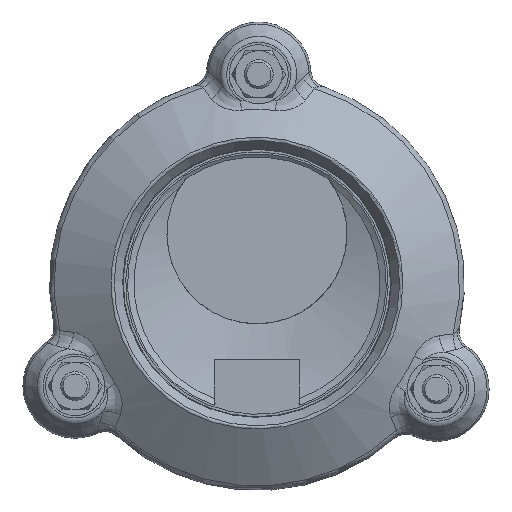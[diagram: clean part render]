
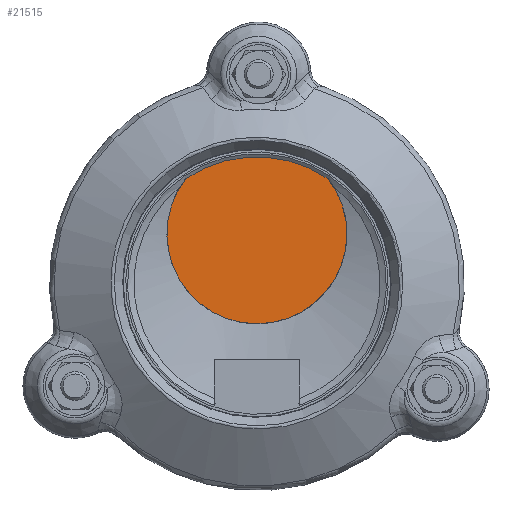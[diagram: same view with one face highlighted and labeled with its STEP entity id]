
A CAD part, front view. The second image highlights one B-rep face of the part: STEP entity #21515.
In plain terms, the highlighted planar face has unit normal (0, -1, 0).
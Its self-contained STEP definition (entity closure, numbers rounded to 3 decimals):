
#17989=CARTESIAN_POINT('',(-28.89,91.0,42.308));
#17990=VERTEX_POINT('',#17989);
#17998=CARTESIAN_POINT('',(28.89,91.0,42.308));
#17999=VERTEX_POINT('',#17998);
#18000=CARTESIAN_POINT('',(0.,91.0,0.0));
#18001=DIRECTION('',(0.0,1.0,0.0));
#18002=DIRECTION('',(0.0,0.0,1.0));
#18003=AXIS2_PLACEMENT_3D('',#18000,#18001,#18002);
#18004=CIRCLE('',#18003,51.231);
#18005=EDGE_CURVE('',#17990,#17999,#18004,.T.);
#21500=CARTESIAN_POINT('',(0.0,91.0,20.0));
#21501=DIRECTION('',(0.0,-1.0,0.0));
#21502=DIRECTION('',(0.0,0.0,-1.0));
#21503=AXIS2_PLACEMENT_3D('',#21500,#21501,#21502);
#21504=PLANE('',#21503);
#21505=ORIENTED_EDGE('',*,*,#18005,.F.);
#21506=CARTESIAN_POINT('',(0.0,91.0,20.0));
#21507=DIRECTION('',(0.0,1.0,0.0));
#21508=DIRECTION('',(1.0,0.0,0.0));
#21509=AXIS2_PLACEMENT_3D('',#21506,#21507,#21508);
#21510=CIRCLE('',#21509,36.5);
#21511=EDGE_CURVE('',#17999,#17990,#21510,.T.);
#21512=ORIENTED_EDGE('',*,*,#21511,.F.);
#21513=EDGE_LOOP('',(#21505,#21512));
#21514=FACE_OUTER_BOUND('',#21513,.T.);
#21515=ADVANCED_FACE('',(#21514),#21504,.T.);
